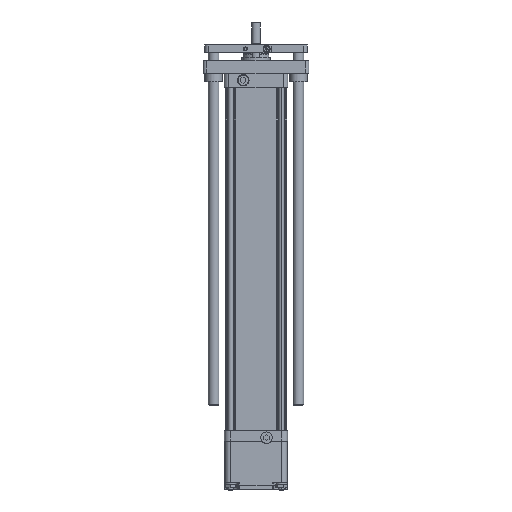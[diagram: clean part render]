
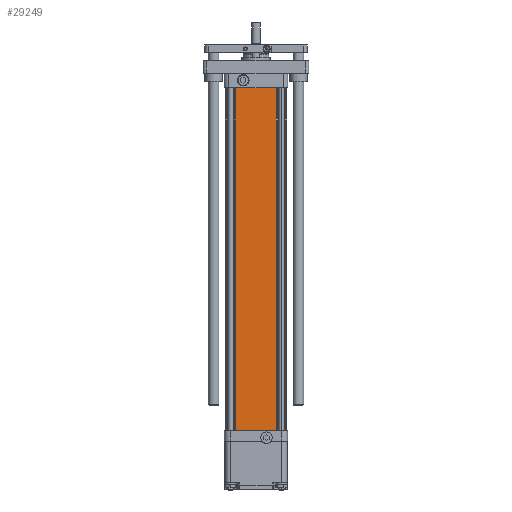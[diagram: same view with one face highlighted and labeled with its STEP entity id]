
A CAD part, front view. The second image highlights one B-rep face of the part: STEP entity #29249.
In plain terms, the highlighted planar face has unit normal (0, -1, 0).
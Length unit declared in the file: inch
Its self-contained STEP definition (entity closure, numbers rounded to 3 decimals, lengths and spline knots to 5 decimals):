
#16009 = CARTESIAN_POINT ( 'NONE',  ( 0.72059, -1.097, 0.022 ) ) ;
#16010 = DIRECTION ( 'NONE',  ( 1., 0., 0. ) ) ;
#16011 = VECTOR ( 'NONE', #16010, 39.37008 ) ;
#16012 = CARTESIAN_POINT ( 'NONE',  ( 0.72059, -1.097, 0.022 ) ) ;
#16013 = LINE ( 'NONE', #16012, #16011 ) ;
#16015 = CARTESIAN_POINT ( 'NONE',  ( -0.72059, -1.097, 0.022 ) ) ;
#24312 = VERTEX_POINT ( 'NONE', #41725 ) ;
#24443 = EDGE_CURVE ( 'NONE', #24444, #24312, #42309, .T. ) ;
#24444 = VERTEX_POINT ( 'NONE', #42304 ) ;
#24515 = EDGE_CURVE ( 'NONE', #24312, #39922, #42869, .T. ) ;
#24520 = EDGE_CURVE ( 'NONE', #24444, #39918, #42919, .T. ) ;
#29249 = ADVANCED_FACE ( 'NONE', ( #47091 ), #47050, .T. ) ;
#29411 = ORIENTED_EDGE ( 'NONE', *, *, #24515, .T. ) ;
#30923 = EDGE_LOOP ( 'NONE', ( #67358, #31849, #31640, #29411 ) ) ;
#31640 = ORIENTED_EDGE ( 'NONE', *, *, #24443, .T. ) ;
#31849 = ORIENTED_EDGE ( 'NONE', *, *, #24520, .F. ) ;
#39918 = VERTEX_POINT ( 'NONE', #16015 ) ;
#39921 = EDGE_CURVE ( 'NONE', #39918, #39922, #16013, .T. ) ;
#39922 = VERTEX_POINT ( 'NONE', #16009 ) ;
#41725 = CARTESIAN_POINT ( 'NONE',  ( 0.72059, -1.097, -12.128 ) ) ;
#42304 = CARTESIAN_POINT ( 'NONE',  ( -0.72059, -1.097, -12.128 ) ) ;
#42305 = DIRECTION ( 'NONE',  ( 1., 0., 0. ) ) ;
#42307 = VECTOR ( 'NONE', #42305, 39.37008 ) ;
#42308 = CARTESIAN_POINT ( 'NONE',  ( 0.72059, -1.097, -12.128 ) ) ;
#42309 = LINE ( 'NONE', #42308, #42307 ) ;
#42864 = DIRECTION ( 'NONE',  ( 0., 0., 1. ) ) ;
#42865 = VECTOR ( 'NONE', #42864, 39.37008 ) ;
#42866 = CARTESIAN_POINT ( 'NONE',  ( 0.72059, -1.097, -12.128 ) ) ;
#42869 = LINE ( 'NONE', #42866, #42865 ) ;
#42915 = DIRECTION ( 'NONE',  ( 0., 0., 1. ) ) ;
#42917 = VECTOR ( 'NONE', #42915, 39.37008 ) ;
#42918 = CARTESIAN_POINT ( 'NONE',  ( -0.72059, -1.097, -12.128 ) ) ;
#42919 = LINE ( 'NONE', #42918, #42917 ) ;
#47049 = AXIS2_PLACEMENT_3D ( 'NONE', #47163, #47162, #47161 ) ;
#47050 = PLANE ( 'NONE',  #47049 ) ;
#47091 = FACE_OUTER_BOUND ( 'NONE', #30923, .T. ) ;
#47161 = DIRECTION ( 'NONE',  ( 1., 0., 0. ) ) ;
#47162 = DIRECTION ( 'NONE',  ( 0., -1., 0. ) ) ;
#47163 = CARTESIAN_POINT ( 'NONE',  ( 0.72059, -1.097, -12.128 ) ) ;
#67358 = ORIENTED_EDGE ( 'NONE', *, *, #39921, .F. ) ;
